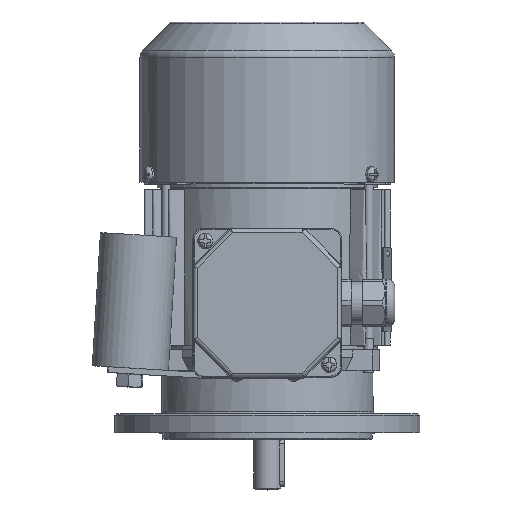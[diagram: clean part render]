
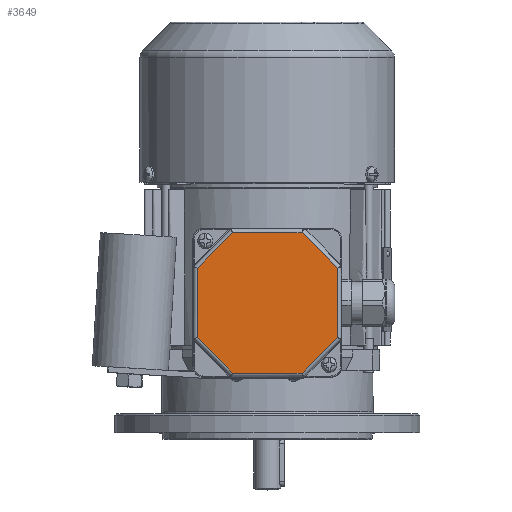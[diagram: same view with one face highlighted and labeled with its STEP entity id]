
A CAD part, top view. The second image highlights one B-rep face of the part: STEP entity #3649.
In plain terms, the highlighted planar face has unit normal (0, 0, 1).
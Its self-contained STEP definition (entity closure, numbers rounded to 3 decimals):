
#3649 = ADVANCED_FACE( '', ( #8669 ), #8670, .T. );
#8669 = FACE_OUTER_BOUND( '', #20231, .T. );
#8670 = PLANE( '', #20232 );
#20231 = EDGE_LOOP( '', ( #57587, #57588, #57589, #57590, #57591, #57592, #57593, #57594 ) );
#20232 = AXIS2_PLACEMENT_3D( '', #57595, #57596, #57597 );
#57587 = ORIENTED_EDGE( '', *, *, #75758, .T. );
#57588 = ORIENTED_EDGE( '', *, *, #75759, .T. );
#57589 = ORIENTED_EDGE( '', *, *, #75760, .T. );
#57590 = ORIENTED_EDGE( '', *, *, #75761, .T. );
#57591 = ORIENTED_EDGE( '', *, *, #75762, .T. );
#57592 = ORIENTED_EDGE( '', *, *, #74243, .T. );
#57593 = ORIENTED_EDGE( '', *, *, #74895, .T. );
#57594 = ORIENTED_EDGE( '', *, *, #75763, .T. );
#57595 = CARTESIAN_POINT( '', ( -39., 39., 12. ) );
#57596 = DIRECTION( '', ( 0., 0., 1. ) );
#57597 = DIRECTION( '', ( 1., 0., 0. ) );
#74243 = EDGE_CURVE( '', #82326, #82327, #82328, .T. );
#74895 = EDGE_CURVE( '', #82327, #82150, #83472, .F. );
#75758 = EDGE_CURVE( '', #84844, #84938, #84939, .F. );
#75759 = EDGE_CURVE( '', #84938, #84940, #84941, .T. );
#75760 = EDGE_CURVE( '', #84940, #84942, #84943, .F. );
#75761 = EDGE_CURVE( '', #84942, #84464, #84944, .T. );
#75762 = EDGE_CURVE( '', #84464, #82326, #84945, .F. );
#75763 = EDGE_CURVE( '', #82150, #84844, #84946, .T. );
#82150 = VERTEX_POINT( '', #93840 );
#82326 = VERTEX_POINT( '', #94530 );
#82327 = VERTEX_POINT( '', #94531 );
#82328 = LINE( '', #94532, #94533 );
#83472 = LINE( '', #98286, #98287 );
#84464 = VERTEX_POINT( '', #101119 );
#84844 = VERTEX_POINT( '', #102739 );
#84938 = VERTEX_POINT( '', #102920 );
#84939 = LINE( '', #102921, #102922 );
#84940 = VERTEX_POINT( '', #102923 );
#84941 = LINE( '', #102924, #102925 );
#84942 = VERTEX_POINT( '', #102926 );
#84943 = LINE( '', #102927, #102928 );
#84944 = LINE( '', #102929, #102930 );
#84945 = LINE( '', #102931, #102932 );
#84946 = LINE( '', #102933, #102934 );
#93840 = CARTESIAN_POINT( '', ( 18.255, -36.825, 12. ) );
#94530 = CARTESIAN_POINT( '', ( -36.825, -18.255, 12. ) );
#94531 = CARTESIAN_POINT( '', ( -18.255, -36.825, 12. ) );
#94532 = CARTESIAN_POINT( '', ( -17.679, -37.401, 12. ) );
#94533 = VECTOR( '', #133295, 1000. );
#98286 = CARTESIAN_POINT( '', ( 19.069, -36.825, 12. ) );
#98287 = VECTOR( '', #134070, 1000. );
#101119 = CARTESIAN_POINT( '', ( -36.825, 18.255, 12. ) );
#102739 = CARTESIAN_POINT( '', ( 36.825, -18.255, 12. ) );
#102920 = CARTESIAN_POINT( '', ( 36.825, 18.255, 12. ) );
#102921 = CARTESIAN_POINT( '', ( 36.825, 19.069, 12. ) );
#102922 = VECTOR( '', #135070, 1000. );
#102923 = CARTESIAN_POINT( '', ( 18.255, 36.825, 12. ) );
#102924 = CARTESIAN_POINT( '', ( 17.679, 37.401, 12. ) );
#102925 = VECTOR( '', #135071, 1000. );
#102926 = CARTESIAN_POINT( '', ( -18.255, 36.825, 12. ) );
#102927 = CARTESIAN_POINT( '', ( -19.069, 36.825, 12. ) );
#102928 = VECTOR( '', #135072, 1000. );
#102929 = CARTESIAN_POINT( '', ( -37.401, 17.679, 12. ) );
#102930 = VECTOR( '', #135073, 1000. );
#102931 = CARTESIAN_POINT( '', ( -36.825, -19.069, 12. ) );
#102932 = VECTOR( '', #135074, 1000. );
#102933 = CARTESIAN_POINT( '', ( 37.401, -17.679, 12. ) );
#102934 = VECTOR( '', #135075, 1000. );
#133295 = DIRECTION( '', ( 0.707, -0.707, 0. ) );
#134070 = DIRECTION( '', ( -1., 0., 0. ) );
#135070 = DIRECTION( '', ( 0., -1., 0. ) );
#135071 = DIRECTION( '', ( -0.707, 0.707, 0. ) );
#135072 = DIRECTION( '', ( 1., 0., 0. ) );
#135073 = DIRECTION( '', ( -0.707, -0.707, 0. ) );
#135074 = DIRECTION( '', ( 0., 1., 0. ) );
#135075 = DIRECTION( '', ( 0.707, 0.707, 0. ) );
